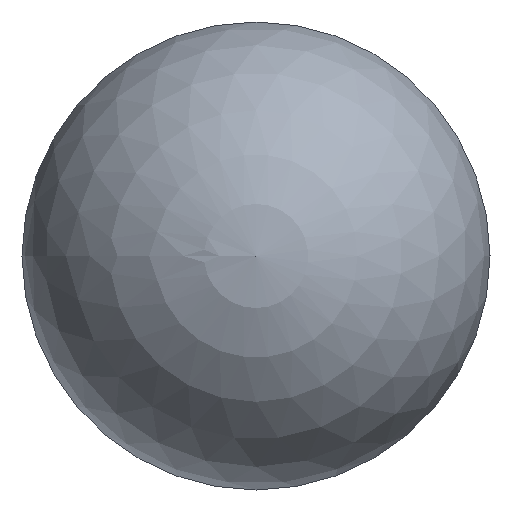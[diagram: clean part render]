
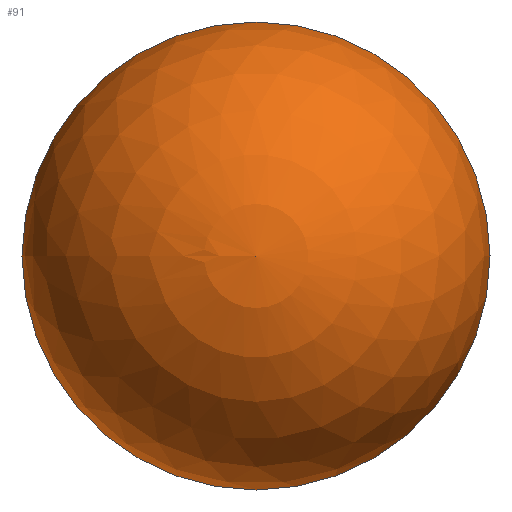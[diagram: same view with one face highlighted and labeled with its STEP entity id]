
A CAD part, left-side view. The second image highlights one B-rep face of the part: STEP entity #91.
In plain terms, the highlighted spherical face has radius 9.4 mm.
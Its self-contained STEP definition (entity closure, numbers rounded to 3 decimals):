
#27=ORIENTED_EDGE('',*,*,#41,.F.);
#41=EDGE_CURVE('',#48,#48,#55,.T.);
#48=VERTEX_POINT('',#162);
#55=CIRCLE('',#113,9.4);
#62=EDGE_LOOP('',(#27));
#76=FACE_BOUND('',#62,.T.);
#90=SPHERICAL_SURFACE('',#112,9.4);
#91=ADVANCED_FACE('',(#76),#90,.T.);
#112=AXIS2_PLACEMENT_3D('',#160,#129,#130);
#113=AXIS2_PLACEMENT_3D('',#161,#131,#132);
#129=DIRECTION('',(1.,0.,0.));
#130=DIRECTION('',(0.,1.,0.));
#131=DIRECTION('',(1.,0.,0.));
#132=DIRECTION('',(0.,1.,0.));
#160=CARTESIAN_POINT('',(9.4,0.,0.));
#161=CARTESIAN_POINT('',(9.4,0.,0.));
#162=CARTESIAN_POINT('',(9.4,9.4,0.));
